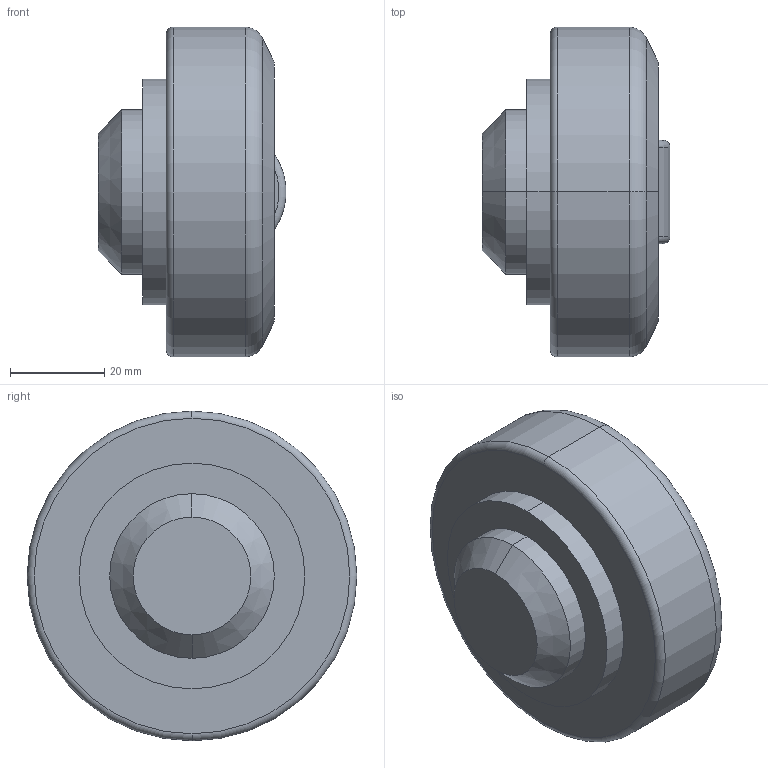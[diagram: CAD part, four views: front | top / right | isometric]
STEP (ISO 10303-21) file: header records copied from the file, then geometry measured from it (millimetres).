
FILE_DESCRIPTION (( 'STEP AP203' ), '1' );
FILE_NAME ('3D40055L.STEP', '2002-11-20T09:58:33', ( 'Francesc' ), ( 'propia' ), 'SwSTEP 2.0', 'SolidWorks 2001039', '' );
FILE_SCHEMA (( 'CONFIG_CONTROL_DESIGN' ));
Length unit declared in the file: millimetre
Products named in the file (1): 2
Bounding box: 39.95 x 70.1 x 70.1 mm (x, y, z)
Volume: 103097.8 mm3; surface area: 13375.1 mm2
Topology: 1 solids, 1 shells, 23 faces, 46 edges, 28 vertices
Faces by surface type: cylinder 7, torus 6, plane 6, cone 4
Entity records: 725 total; most frequent: CARTESIAN_POINT 150, DIRECTION 118, ORIENTED_EDGE 92, AXIS2_PLACEMENT_3D 52, EDGE_CURVE 46, VERTEX_POINT 28, CIRCLE 28, EDGE_LOOP 26
